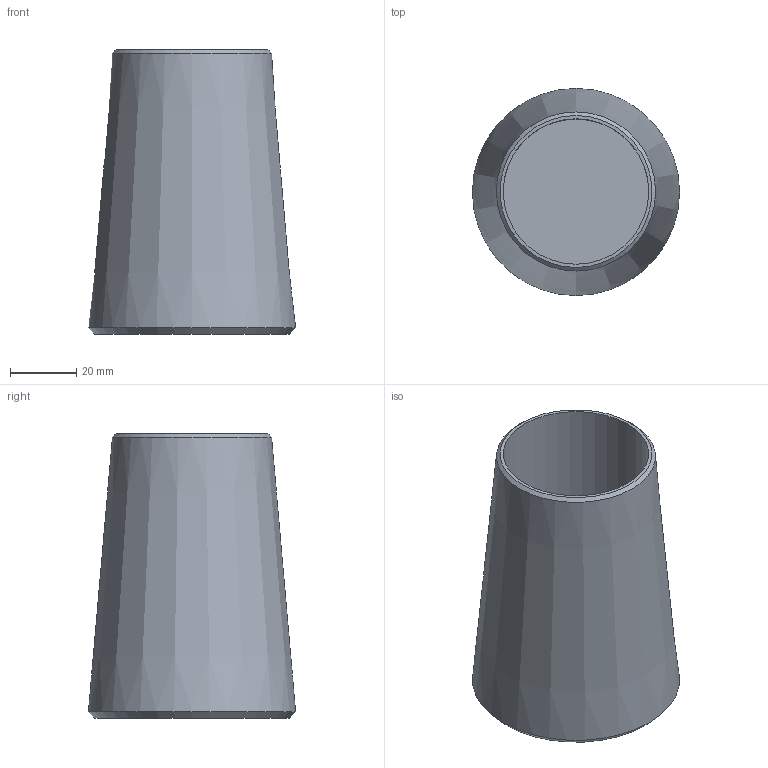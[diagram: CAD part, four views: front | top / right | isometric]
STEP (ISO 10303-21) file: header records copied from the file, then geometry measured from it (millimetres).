
FILE_DESCRIPTION(/* description */ (''),/* implementation_level */ '2;1');
FILE_NAME(/* name */ 'C:\Vault_WS\Designs\SB\01-PX\Verzinkt\ZSS\520 - Kontermutter\520-042-KMU.stp',/* time_stamp */ '2020-06-18T12:27:45+02:00',/* author */ ('schwarz'),/* organization */ (''),/* preprocessor_version */ 'ST-DEVELOPER v16.1',/* originating_system */ 'Autodesk Inventor 2016',/* authorisation */ '');
FILE_SCHEMA (('AUTOMOTIVE_DESIGN { 1 0 10303 214 3 1 1 }'));
Length unit declared in the file: millimetre
Products named in the file (1): Kontermutter 520 042 Kunde
Bounding box: 62.65 x 62.65 x 86 mm (x, y, z)
Volume: 109853.8 mm3; surface area: 28611.6 mm2
Topology: 1 solids, 1 shells, 7 faces, 10 edges, 6 vertices
Faces by surface type: cone 3, plane 3, cylinder 1
Full cylindrical faces by diameter (mm): 44 x1
Entity records: 158 total; most frequent: DIRECTION 28, CARTESIAN_POINT 20, AXIS2_PLACEMENT_3D 14, EDGE_LOOP 12, ORIENTED_EDGE 12, FACE_OUTER_BOUND 7, ADVANCED_FACE 7, CIRCLE 6
